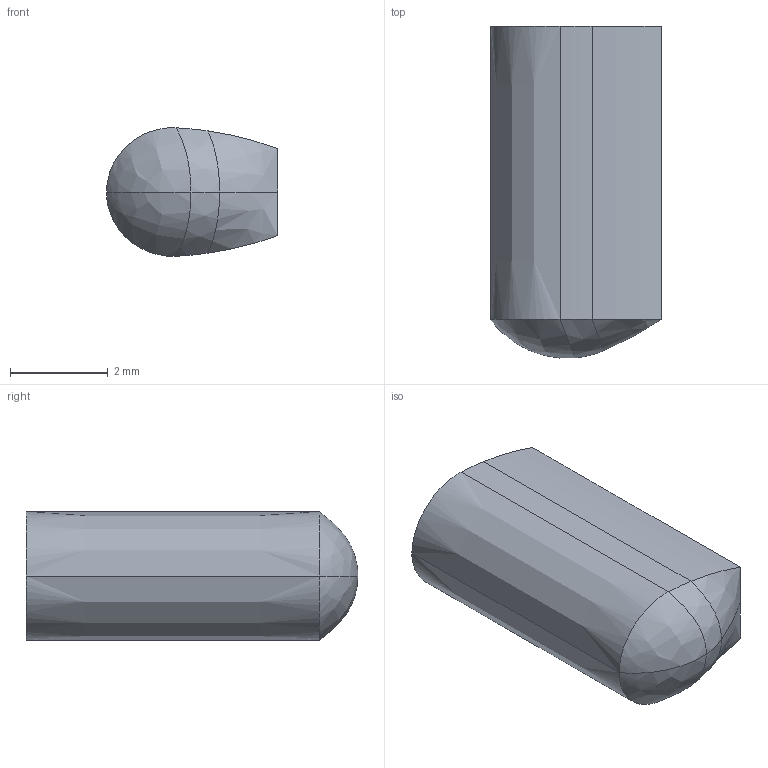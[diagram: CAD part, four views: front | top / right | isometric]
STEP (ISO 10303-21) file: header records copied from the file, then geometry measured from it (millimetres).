
FILE_DESCRIPTION((''),'2;1');
FILE_NAME('DE12-12','2004-03-24T',('tmeister'),(''),'PRO/ENGINEER BY PARAMETRIC TECHNOLOGY CORPORATION, 2002390','PRO/ENGINEER BY PARAMETRIC TECHNOLOGY CORPORATION, 2002390','');
FILE_SCHEMA(('CONFIG_CONTROL_DESIGN'));
Length unit declared in the file: millimetre
Products named in the file (1): DE12-12
Bounding box: 3.5 x 6.79 x 2.63 mm (x, y, z)
Surface area: 71.8 mm2 (no closed solid volume)
Topology: 0 solids, 1 shells, 13 faces, 31 edges, 17 vertices
Faces by surface type: bspline 6, cylinder 4, extrusion 2, plane 1
Entity records: 550 total; most frequent: CARTESIAN_POINT 261, ORIENTED_EDGE 51, DIRECTION 38, EDGE_CURVE 29, VERTEX_POINT 17, AXIS2_PLACEMENT_3D 13, EDGE_LOOP 13, FACE_OUTER_BOUND 13
